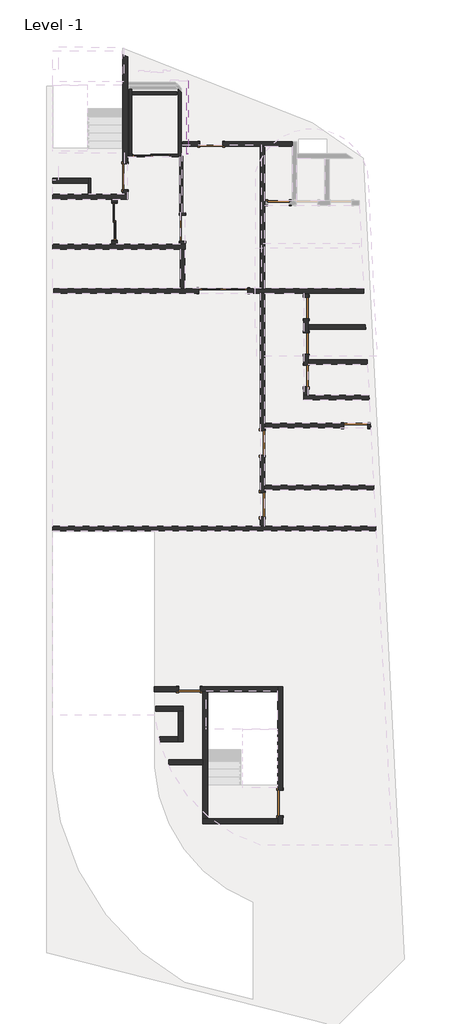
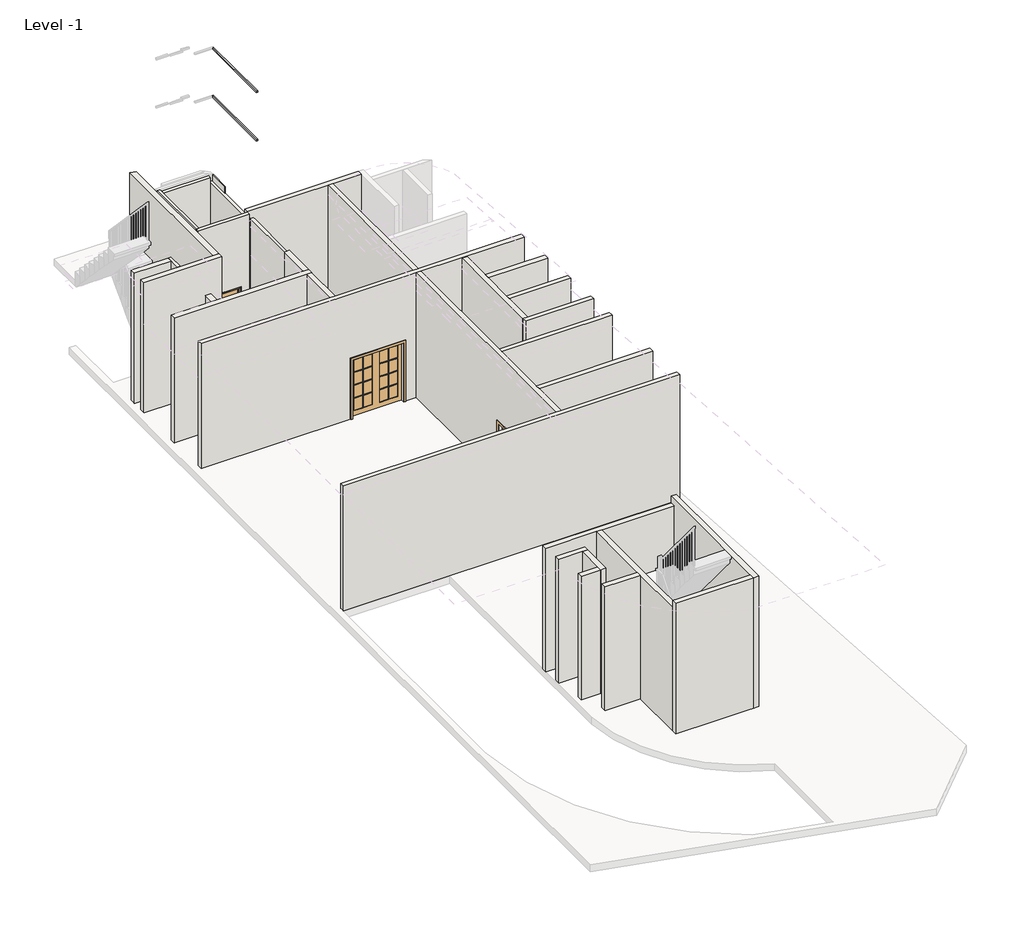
# One storey, part 1 of 3: 31 walls, 15 doors, 2 proxies.
"""IFC4 building model written with IfcOpenShell, lengths in millimetres."""

from ifc_helpers import new_model, si_unit, frame, origin, place, context, project, spatial, polyline, outline, extrude, faceted_brep, transform, mapped, element, save
from components import m_double_glass_2_1730_x_2134mm_148375e1, m_single_flush_0762_x_2032mm_6f5f7af1, m_single_flush_0762_x_2134mm_e7173df3, m_single_flush_0762_x_2134mm_6e0fa8c7, m_single_flush_0813_x_2134mm_33eb9d5a, m_single_flush_0864_x_2032mm_76ab4baa, m_single_flush_0864_x_2032mm_40cd5c93, m_single_flush_0915_x_2032mm_88b5ae01, m_single_flush_0915_x_2134mm_5c733ab1, sliding_door_2_panel_aus_f73f6a40, sliding_door_2_panel_aus_ee5771a8

model = new_model("IFC4")

# Units and contexts
model_context = context("Model", 3, world=origin())
ifc_project = project(units=[si_unit("LENGTHUNIT", "METRE", prefix="MILLI")], contexts=[model_context])

# Site, building, storey
site = spatial("IfcSite", under=ifc_project)
building = spatial("IfcBuilding", under=site)
storey = spatial("IfcBuildingStorey", under=building, Name="Level -1", Elevation=-3500.0)

# Proxies
placement = place(None, origin())
element("IfcBuildingElementProxy", 1, Name="Reveal", ObjectType="Reveal", at=placement, inside=storey, context=model_context, shape_type="SweptSolid", body=[
    extrude(outline(polyline([(4695.156273, 12731.9436225), (4745.156273, 12731.9436225), (4745.156273, 10131.7405588), (4695.156273, 10131.7405588), (4695.156273, 12731.9436225)])), frame((0.0, 0.0, 5406.0), z_axis=(0.0, 0.0, 1.0), x_axis=(1.0, 0.0, 0.0)), (0.0, 0.0, 1.0), 50.0),
])
element("IfcBuildingElementProxy", 2, Name="Reveal", ObjectType="Reveal", at=placement, inside=storey, context=model_context, shape_type="SweptSolid", body=[
    extrude(outline(polyline([(4695.156273, 12731.9436225), (4745.156273, 12731.9436225), (4745.156273, 10131.7405588), (4695.156273, 10131.7405588), (4695.156273, 12731.9436225)])), frame((0.0, 0.0, 3664.8841872), z_axis=(0.0, 0.0, 1.0), x_axis=(1.0, 0.0, 0.0)), (0.0, 0.0, 1.0), 50.0),
])

# Doors
m_double_glass_2_1730_x_2134mm_shape = m_double_glass_2_1730_x_2134mm_148375e1(model_context)
element("IfcDoor", 3, ObjectType="M_Double-Glass 2 : 1730 x 2134mm", at=placement, inside=storey, context=model_context, shape_type="MappedRepresentation", body=[
    mapped(m_double_glass_2_1730_x_2134mm_shape, transform((5994.6770156, 5282.6968455, -3500.0), x_axis=(1.0, 0.0, 0.0), y_axis=(0.0, 1.0, 0.0), z_axis=(0.0, 0.0, 1.0))),
])
m_single_flush_0762_x_2032mm_shape = m_single_flush_0762_x_2032mm_6f5f7af1(model_context)
element("IfcDoor", 4, ObjectType="M_Single-Flush : 0762 x 2032mm", at=placement, inside=storey, context=model_context, shape_type="MappedRepresentation", body=[
    mapped(m_single_flush_0762_x_2032mm_shape, transform((7949.4608626, 8399.9753316, -3500.0), x_axis=(-1.0, 0.0, 0.0), y_axis=(0.0, -1.0, 0.0), z_axis=(0.0, 0.0, 1.0))),
])
m_single_flush_0762_x_2134mm_shape = m_single_flush_0762_x_2134mm_e7173df3(model_context)
element("IfcDoor", 5, ObjectType="M_Single-Flush : 0762 x 2134mm", at=placement, inside=storey, context=model_context, shape_type="MappedRepresentation", body=[
    mapped(m_single_flush_0762_x_2134mm_shape, transform((4788.992527, -8850.5298497, -3500.0), x_axis=(1.0, 0.0, 0.0), y_axis=(0.0, 1.0, 0.0), z_axis=(0.0, 0.0, 1.0))),
])
m_single_flush_0762_x_2134mm_2_shape = m_single_flush_0762_x_2134mm_6e0fa8c7(model_context)
element("IfcDoor", 6, ObjectType="M_Single-Flush : 0762 x 2134mm", at=placement, inside=storey, context=model_context, shape_type="MappedRepresentation", body=[
    mapped(m_single_flush_0762_x_2134mm_2_shape, transform((8929.9434137, 4675.5054015, -3500.0), x_axis=(0.0, 1.0, 0.0), y_axis=(-1.0, 0.0, 0.0), z_axis=(0.0, 0.0, 1.0))),
])
element("IfcDoor", 7, ObjectType="M_Single-Flush : 0762 x 2134mm", at=placement, inside=storey, context=model_context, shape_type="MappedRepresentation", body=[
    mapped(m_single_flush_0762_x_2134mm_2_shape, transform((8929.9434137, 3413.5054015, -3500.0), x_axis=(0.0, 1.0, 0.0), y_axis=(-1.0, 0.0, 0.0), z_axis=(0.0, 0.0, 1.0))),
])
element("IfcDoor", 8, ObjectType="M_Single-Flush : 0762 x 2134mm", at=placement, inside=storey, context=model_context, shape_type="MappedRepresentation", body=[
    mapped(m_single_flush_0762_x_2134mm_2_shape, transform((8929.9434137, 2251.5054015, -3500.0), x_axis=(0.0, 1.0, 0.0), y_axis=(-1.0, 0.0, 0.0), z_axis=(0.0, 0.0, 1.0))),
])
m_single_flush_0813_x_2134mm_shape = m_single_flush_0813_x_2134mm_33eb9d5a(model_context)
element("IfcDoor", 9, ObjectType="M_Single-Flush : 0813 x 2134mm", at=placement, inside=storey, context=model_context, shape_type="MappedRepresentation", body=[
    mapped(m_single_flush_0813_x_2134mm_shape, transform((5561.458768, 10480.8522913, -3500.0), x_axis=(-1.0, 0.0, 0.0), y_axis=(0.0, -1.0, 0.0), z_axis=(0.0, 0.0, 1.0))),
])
m_single_flush_0864_x_2032mm_shape = m_single_flush_0864_x_2032mm_76ab4baa(model_context)
element("IfcDoor", 10, ObjectType="M_Single-Flush : 0864 x 2032mm", at=placement, inside=storey, context=model_context, shape_type="MappedRepresentation", body=[
    mapped(m_single_flush_0864_x_2032mm_shape, transform((7379.9434137, -112.8753921, -3500.0), x_axis=(0.0, 1.0, 0.0), y_axis=(-1.0, 0.0, 0.0), z_axis=(0.0, 0.0, 1.0))),
])
element("IfcDoor", 11, ObjectType="M_Single-Flush : 0864 x 2032mm", at=placement, inside=storey, context=model_context, shape_type="MappedRepresentation", body=[
    mapped(m_single_flush_0864_x_2032mm_shape, transform((7379.9434137, -2304.9476624, -3500.0), x_axis=(0.0, 1.0, 0.0), y_axis=(-1.0, 0.0, 0.0), z_axis=(0.0, 0.0, 1.0))),
])
m_single_flush_0864_x_2032mm_2_shape = m_single_flush_0864_x_2032mm_40cd5c93(model_context)
element("IfcDoor", 12, ObjectType="M_Single-Flush : 0864 x 2032mm", at=placement, inside=storey, context=model_context, shape_type="MappedRepresentation", body=[
    mapped(m_single_flush_0864_x_2032mm_2_shape, transform((10691.9434137, 499.1246079, -3500.0), x_axis=(1.0, 0.0, 0.0), y_axis=(0.0, 1.0, 0.0), z_axis=(0.0, 0.0, 1.0))),
])
m_single_flush_0915_x_2032mm_shape = m_single_flush_0915_x_2032mm_88b5ae01(model_context)
element("IfcDoor", 13, ObjectType="M_Single-Flush : 0915 x 2032mm", at=placement, inside=storey, context=model_context, shape_type="MappedRepresentation", body=[
    mapped(m_single_flush_0915_x_2032mm_shape, transform((8009.9667664, -12880.0279318, -3500.0), x_axis=(0.0, -1.0, 0.0), y_axis=(1.0, 0.0, 0.0), z_axis=(0.0, 0.0, 1.0))),
])
m_single_flush_0915_x_2134mm_shape = m_single_flush_0915_x_2134mm_5c733ab1(model_context)
element("IfcDoor", 14, ObjectType="M_Single-Flush : 0915 x 2134mm", at=placement, inside=storey, context=model_context, shape_type="MappedRepresentation", body=[
    mapped(m_single_flush_0915_x_2134mm_shape, transform((2509.6668671, 9329.4436159, -3500.0), x_axis=(0.0, -1.0, 0.0), y_axis=(1.0, 0.0, 0.0), z_axis=(0.0, 0.0, 1.0))),
])
element("IfcDoor", 15, ObjectType="M_Single-Flush : 0915 x 2134mm", at=placement, inside=storey, context=model_context, shape_type="MappedRepresentation", body=[
    mapped(m_single_flush_0915_x_2134mm_shape, transform((4549.6770164, 7499.4456458, -3500.0), x_axis=(0.0, -1.0, 0.0), y_axis=(1.0, 0.0, 0.0), z_axis=(0.0, 0.0, 1.0))),
])
sliding_door_2_panel_aus_shape = sliding_door_2_panel_aus_f73f6a40(model_context)
element("IfcDoor", 16, ObjectType="Sliding Door - 2 Panel (AUS) : elavator door", at=placement, inside=storey, context=model_context, shape_type="MappedRepresentation", body=[
    mapped(sliding_door_2_panel_aus_shape, transform((2134.7837288, 7646.1973399, -3500.0), x_axis=(0.0, 1.0, 0.0), y_axis=(-1.0, 0.0, 0.0), z_axis=(0.0, 0.0, 1.0))),
])
sliding_door_2_panel_aus_2_shape = sliding_door_2_panel_aus_ee5771a8(model_context)
element("IfcDoor", 17, ObjectType="Sliding Door - 2 Panel (AUS) : elavator door", at=placement, inside=storey, context=model_context, shape_type="MappedRepresentation", body=[
    mapped(sliding_door_2_panel_aus_2_shape, transform((3525.434997, 10081.9436225, -3500.0), x_axis=(-1.0, 0.0, 0.0), y_axis=(0.0, -1.0, 0.0), z_axis=(0.0, 0.0, 1.0))),
])

# Walls
element("IfcWall", 18, ObjectType="Generic - 18cm-gypsu-2boith 2", at=placement, inside=storey, context=model_context, shape_type="Brep", body=[
    faceted_brep([(4639.6770164, 6931.9670663, -3500.0), (4459.6770164, 6931.9670663, -3500.0), (2224.7837288, 6931.9670663, -3500.0), (2044.7837288, 6931.9670663, -3500.0), (-50.0290025, 6931.9670663, -3500.0), (-50.0290025, 6931.9670663, 1000.0), (4459.6770164, 6931.9670663, 1000.0), (4639.6770164, 6931.9670663, 1000.0), (4639.6770164, 6751.9670663, -3500.0), (4639.6770164, 6751.9670663, 1000.0), (4629.6770156, 6751.9670663, 1000.0), (4469.6770156, 6751.9670663, 1000.0), (-50.0290025, 6751.9670663, 1000.0), (-50.0290025, 6751.9670663, -3500.0), (4469.6770156, 6751.9670663, -3500.0), (4629.6770156, 6751.9670663, -3500.0)], [[[0, 1, 2, 3, 4, 5, 6, 7]], [[8, 9, 10, 11, 12, 13, 14, 15]], [[4, 3, 2, 1, 0, 8, 15, 14, 13]], [[7, 6, 5, 12, 11, 10, 9]], [[0, 7, 9, 8]], [[5, 4, 13, 12]]]),
])
element("IfcWall", 19, ObjectType="Generic - 18cm-gypsu-2boith 2", at=placement, inside=storey, context=model_context, shape_type="Brep", body=[
    faceted_brep([(4459.6770164, 7041.9456458, -1366.0), (4459.6770164, 7041.9456458, -3500.0), (4459.6770164, 6931.9670663, -3500.0), (4459.6770164, 6931.9670663, 1000.0), (4459.6770164, 8066.9242252, 1000.0), (4459.6770164, 8066.9242252, -3500.0), (4459.6770164, 7956.9456458, -3500.0), (4459.6770164, 7956.9456458, -1366.0), (4639.6770164, 6931.9670663, -3500.0), (4639.6770164, 7041.9456458, -3500.0), (4639.6770164, 7041.9456458, -1366.0), (4639.6770164, 7956.9456458, -1366.0), (4639.6770164, 7956.9456458, -3500.0), (4639.6770164, 8066.9242252, -3500.0), (4639.6770164, 8066.9242252, 1000.0), (4639.6770164, 6931.9670663, 1000.0), (4554.958768, 8066.9242252, -3500.0), (4554.958768, 8066.9242252, 1000.0)], [[[0, 1, 2, 3, 4, 5, 6, 7]], [[8, 9, 10, 11, 12, 13, 14, 15]], [[6, 5, 16, 13, 12]], [[2, 1, 9, 8]], [[4, 3, 15, 14, 17]], [[5, 4, 17, 14, 13, 16]], [[3, 2, 8, 15]], [[10, 9, 1, 0]], [[11, 10, 0, 7]], [[12, 11, 7, 6]]]),
])
element("IfcWall", 20, ObjectType="Generic - 18cm-gypsu-2boith 2", at=placement, inside=storey, context=model_context, shape_type="Brep", body=[
    faceted_brep([(2419.6668671, 8871.9436159, -1366.0), (2419.6668671, 8871.9436159, -3500.0), (2419.6668671, 8711.9436159, -3500.0), (2419.6668671, 8711.9436159, 1200.0), (2419.6668671, 13644.4416764, 1200.0), (2419.6668671, 13644.4416764, -3500.0), (2419.6668671, 9786.9436159, -3500.0), (2419.6668671, 9786.9436159, -1366.0), (2599.6668671, 8711.9436159, -3500.0), (2599.6668671, 8871.9436159, -3500.0), (2599.6668671, 8871.9436159, -1366.0), (2599.6668671, 9786.9436159, -1366.0), (2599.6668671, 9786.9436159, -3500.0), (2599.6668671, 13573.7027314, -3500.0), (2599.6668671, 13573.7027314, 1200.0), (2599.6668671, 8711.9436159, 1200.0)], [[[0, 1, 2, 3, 4, 5, 6, 7]], [[8, 9, 10, 11, 12, 13, 14, 15]], [[6, 5, 13, 12]], [[2, 1, 9, 8]], [[4, 3, 15, 14]], [[3, 2, 8, 15]], [[10, 9, 1, 0]], [[11, 10, 0, 7]], [[12, 11, 7, 6]], [[5, 4, 14, 13]]]),
])
element("IfcWall", 21, ObjectType="Generic - 18cm-gypsu-2boith 2", at=placement, inside=storey, context=model_context, shape_type="Brep", body=[
    faceted_brep([(2599.6668671, 8711.9436159, -3500.0), (2419.6668671, 8711.9436159, -3500.0), (-50.0290025, 8711.9436159, -3500.0), (-50.0290025, 8711.9436159, 1200.0), (2419.6668671, 8711.9436159, 1200.0), (2599.6668671, 8711.9436159, 1200.0), (2599.6668671, 8531.9436159, -3500.0), (2599.6668671, 8531.9436159, 1200.0), (-50.0290025, 8531.9436159, 1200.0), (-50.0290025, 8531.9436159, -3500.0), (2044.7837288, 8531.9436159, -3500.0), (2224.7837288, 8531.9436159, -3500.0)], [[[0, 1, 2, 3, 4, 5]], [[6, 7, 8, 9, 10, 11]], [[2, 1, 0, 6, 11, 10, 9]], [[5, 4, 3, 8, 7]], [[0, 5, 7, 6]], [[3, 2, 9, 8]]]),
])
element("IfcWall", 22, ObjectType="Generic - 10cm-gypsu-2boith", at=placement, inside=storey, context=model_context, shape_type="Brep", body=[
    faceted_brep([(4454.958768, 10056.7405588, 1000.0), (4454.958768, 10056.7405588, -3500.0), (4454.958768, 8066.9242252, -3500.0), (4454.958768, 8066.9242252, 1000.0), (4554.958768, 10056.7405588, -3500.0), (4554.958768, 10056.7405588, 1000.0), (4554.958768, 9981.7405588, 1000.0), (4554.958768, 8066.9242252, 1000.0), (4554.958768, 8066.9242252, -3500.0), (4459.6770164, 8066.9242252, -3500.0), (4459.6770164, 8066.9242252, 1000.0)], [[[0, 1, 2, 3]], [[4, 5, 6, 7, 8]], [[2, 1, 4, 8, 9]], [[3, 2, 9, 8, 7, 10]], [[0, 3, 10, 7, 6, 5]], [[0, 5, 4, 1]]]),
])
element("IfcWall", 23, ObjectType="Generic - 10cm-gypsu-2boith", at=placement, inside=storey, context=model_context, shape_type="Brep", body=[
    faceted_brep([(1198.6625691, 9269.4957276, -3500.0), (1198.6625691, 9089.4957276, -3500.0), (1198.6625691, 8731.9436159, -3500.0), (1198.6625691, 8731.9436159, 1200.0), (1198.6625691, 9089.4957276, 1200.0), (1198.6625691, 9269.4957276, 1200.0), (1298.6625691, 9269.4957276, -3500.0), (1298.6625691, 9269.4957276, 1200.0), (1298.6625691, 8731.9436159, 1200.0), (1298.6625691, 8731.9436159, -3500.0)], [[[0, 1, 2, 3, 4, 5]], [[6, 7, 8, 9]], [[2, 1, 0, 6, 9]], [[3, 2, 9, 8]], [[5, 4, 3, 8, 7]], [[0, 5, 7, 6]]]),
])
element("IfcWall", 24, ObjectType="Generic - 18cm-gypsu-2boith 2", at=placement, inside=storey, context=model_context, shape_type="SweptSolid", body=[
    extrude(outline(polyline([(1198.6625691, 9089.4957276), (-50.0290025, 9089.4957276), (-50.0290025, 9269.4957276), (1198.6625691, 9269.4957276), (1198.6625691, 9089.4957276)])), frame((0.0, 0.0, -3500.0), z_axis=(0.0, 0.0, 1.0), x_axis=(1.0, 0.0, 0.0)), (0.0, 0.0, 1.0), 4700.0),
])
element("IfcWall", 25, ObjectType="Generic - 10cm-gypsu-2boith", at=placement, inside=storey, context=model_context, shape_type="Brep", body=[
    faceted_brep([(4399.6302337, 10031.9436225, 1200.0), (2649.6769958, 10031.9436225, 1200.0), (2649.6769958, 10031.9436225, -3500.0), (2749.6769958, 10031.9436225, -3500.0), (2749.6769958, 10031.9436225, -1317.0), (4129.6769958, 10031.9436225, -1317.0), (4129.6769958, 10031.9436225, -3500.0), (4399.6302337, 10031.9436225, -3500.0), (2649.6769958, 10131.9436225, 1200.0), (2749.6769958, 10131.9436225, 1200.0), (4399.6302337, 10131.9436225, 1200.0), (4399.6302337, 10131.9436225, -3500.0), (4129.6769958, 10131.9436225, -3500.0), (4129.6769958, 10131.9436225, -1317.0), (2749.6769958, 10131.9436225, -1317.0), (2749.6769958, 10131.9436225, -3500.0), (2649.6769958, 10131.9436225, -3500.0), (4399.6302337, 10046.9423839, -3500.0)], [[[0, 1, 2, 3, 4, 5, 6, 7]], [[8, 9, 10, 11, 12, 13, 14, 15, 16]], [[2, 16, 15, 3]], [[11, 17, 7, 6, 12]], [[1, 0, 10, 9, 8]], [[2, 1, 8, 16]], [[0, 7, 17, 11, 10]], [[5, 13, 12, 6]], [[13, 5, 4, 14]], [[14, 4, 3, 15]]]),
])
element("IfcWall", 26, ObjectType="Generic - 10cm-gypsu-2boith", at=placement, inside=storey, context=model_context, shape_type="Brep", body=[
    faceted_brep([(4399.6302337, 12428.1995427, -3500.0), (4399.6302337, 10131.9436225, -3500.0), (4399.6302337, 10046.9423839, -3500.0), (4399.6302337, 10046.9423839, 959.0), (4399.6302337, 12428.1995427, 959.0), (4499.6302337, 10046.9423839, -3500.0), (4499.6302337, 12328.1995427, -3500.0), (4499.6302337, 12328.1995427, 1200.0), (4499.6302337, 11608.4756141, 1200.0), (4499.6302337, 11608.4756141, 959.0), (4499.6302337, 10046.9423839, 959.0), (4484.6302337, 12343.1995427, 1200.0), (4484.6302337, 11608.4756141, 1200.0), (4484.6302337, 12343.1995427, 959.0), (4484.6302337, 11608.4756141, 959.0)], [[[0, 1, 2, 3, 4]], [[5, 6, 7, 8, 9, 10]], [[2, 1, 0, 6, 5]], [[8, 7, 11, 12]], [[7, 6, 0, 4, 13, 11]], [[9, 14, 13, 4, 3, 10]], [[14, 12, 11, 13]], [[12, 14, 9, 8]], [[2, 5, 10, 3]]]),
])
element("IfcWall", 27, ObjectType="Generic - 10cm-gypsu-2boith", at=placement, inside=storey, context=model_context, shape_type="Brep", body=[
    faceted_brep([(2649.6769958, 12431.9436225, -3500.0), (2649.6769958, 10131.9436225, -3500.0), (2649.6769958, 10131.9436225, 1200.0), (2649.6769958, 12431.9436225, 1200.0), (2749.6769958, 12431.9436225, -3500.0), (2749.6769958, 12431.9436225, 1200.0), (2749.6769958, 12331.9436225, 1200.0), (2749.6769958, 12231.9436225, 1200.0), (2749.6769958, 10131.9436225, 1200.0), (2749.6769958, 10131.9436225, -3500.0), (2749.6769958, 12231.9436225, -3500.0), (2749.6769958, 12331.9436225, -3500.0)], [[[0, 1, 2, 3]], [[4, 5, 6, 7, 8, 9, 10, 11]], [[1, 0, 4, 11, 10, 9]], [[3, 2, 8, 7, 6, 5]], [[2, 1, 9, 8]], [[0, 3, 5, 4]]]),
])
element("IfcWall", 28, ObjectType="Generic - 10cm-gypsu-2boith", at=placement, inside=storey, context=model_context, shape_type="SweptSolid", body=[
    extrude(outline(polyline([(2749.6769958, 12331.9436225), (4349.6770254, 12331.9436225), (4349.6770254, 12231.9436225), (2749.6769958, 12231.9436225), (2749.6769958, 12331.9436225)])), frame((0.0, 0.0, -3500.0), z_axis=(0.0, 0.0, 1.0), x_axis=(1.0, 0.0, 0.0)), (0.0, 0.0, 1.0), 4700.0),
])
element("IfcWall", 29, ObjectType="Generic - 18cm-gypsu-2boith 2", at=placement, inside=storey, context=model_context, shape_type="Brep", body=[
    faceted_brep([(5169.992527, -8760.5298497, -3500.0), (5169.992527, -8760.5298497, -1366.0), (4407.992527, -8760.5298497, -1366.0), (4407.992527, -8760.5298497, -3500.0), (3549.4089841, -8760.5298497, -3500.0), (3549.4089841, -8760.5298497, 959.0), (7919.9667664, -8760.5298497, 959.0), (7919.9667664, -8760.5298497, -3500.0), (5169.992527, -8940.5298497, -1366.0), (5169.992527, -8940.5298497, -3500.0), (5269.992527, -8940.5298497, -3500.0), (5449.992527, -8940.5298497, -3500.0), (7919.9667664, -8940.5298497, -3500.0), (7919.9667664, -8940.5298497, 959.0), (7909.9709976, -8940.5298497, 959.0), (5449.992527, -8940.5298497, 959.0), (5269.992527, -8940.5298497, 959.0), (3549.4089841, -8940.5298497, 959.0), (3549.4089841, -8940.5298497, -3500.0), (4407.992527, -8940.5298497, -3500.0), (4407.992527, -8940.5298497, -1366.0)], [[[0, 1, 2, 3, 4, 5, 6, 7]], [[8, 9, 10, 11, 12, 13, 14, 15, 16, 17, 18, 19, 20]], [[18, 4, 3, 19]], [[9, 0, 7, 12, 11, 10]], [[4, 18, 17, 5]], [[1, 0, 9, 8]], [[2, 1, 8, 20]], [[3, 2, 20, 19]], [[12, 7, 6, 13]], [[6, 5, 17, 16, 15, 14, 13]]]),
])
element("IfcWall", 30, ObjectType="Generic - 18cm-gypsu-2boith 2", at=placement, inside=storey, context=model_context, shape_type="Brep", body=[
    faceted_brep([(7919.9667664, -13337.5279318, -1468.0), (7919.9667664, -13337.5279318, -3500.0), (7919.9667664, -13437.5279318, -3500.0), (7919.9667664, -13617.5279318, -3500.0), (7919.9667664, -13617.5279318, 1200.0), (7919.9667664, -13437.5279318, 1200.0), (7919.9667664, -8940.5298497, 1200.0), (7919.9667664, -8760.5298497, 1200.0), (7919.9667664, -8760.5298497, -3500.0), (7919.9667664, -8940.5298497, -3500.0), (7919.9667664, -12422.5279318, -3500.0), (7919.9667664, -12422.5279318, -1468.0), (8099.9667664, -13617.5279318, -3500.0), (8099.9667664, -13337.5279318, -3500.0), (8099.9667664, -13337.5279318, -1468.0), (8099.9667664, -12422.5279318, -1468.0), (8099.9667664, -12422.5279318, -3500.0), (8099.9667664, -8760.5298497, -3500.0), (8099.9667664, -8760.5298497, 1200.0), (8099.9667664, -13617.5279318, 1200.0)], [[[0, 1, 2, 3, 4, 5, 6, 7, 8, 9, 10, 11]], [[12, 13, 14, 15, 16, 17, 18, 19]], [[3, 2, 1, 13, 12]], [[10, 9, 8, 17, 16]], [[7, 6, 5, 4, 19, 18]], [[4, 3, 12, 19]], [[14, 13, 1, 0]], [[15, 14, 0, 11]], [[16, 15, 11, 10]], [[8, 7, 18, 17]]]),
])
element("IfcWall", 31, ObjectType="Generic - 18cm-gypsu-2boith 2", at=placement, inside=storey, context=model_context, shape_type="Brep", body=[
    faceted_brep([(5449.992527, -13437.5279318, -3500.0), (5449.992527, -8940.5298497, -3500.0), (5449.992527, -8940.5298497, 959.0), (5449.992527, -12235.6929429, 959.0), (5449.992527, -13437.5279318, 959.0), (5269.992527, -8940.5298497, -3500.0), (5269.992527, -11355.2406086, -3500.0), (5269.992527, -11535.2406086, -3500.0), (5269.992527, -13437.5279318, -3500.0), (5269.992527, -13437.5279318, 959.0), (5269.992527, -11535.2406086, 959.0), (5269.992527, -11355.2406086, 959.0), (5269.992527, -8940.5298497, 959.0)], [[[0, 1, 2, 3, 4]], [[5, 6, 7, 8, 9, 10, 11, 12]], [[1, 0, 8, 7, 6, 5]], [[1, 5, 12, 2]], [[8, 0, 4, 9]], [[4, 3, 2, 12, 11, 10, 9]]]),
])
element("IfcWall", 32, ObjectType="Generic - 18cm-gypsu-2boith 2", at=placement, inside=storey, context=model_context, shape_type="Brep", body=[
    faceted_brep([(7919.9667664, -13437.5279318, -3500.0), (5449.992527, -13437.5279318, -3500.0), (5269.992527, -13437.5279318, -3500.0), (5269.992527, -13437.5279318, 1200.0), (5449.992527, -13437.5279318, 1200.0), (7919.9667664, -13437.5279318, 1200.0), (7919.9667664, -13617.5279318, -3500.0), (7919.9667664, -13617.5279318, 1200.0), (5269.992527, -13617.5279318, 1200.0), (5269.992527, -13617.5279318, -3500.0)], [[[0, 1, 2, 3, 4, 5]], [[6, 7, 8, 9]], [[2, 1, 0, 6, 9]], [[5, 4, 3, 8, 7]], [[0, 5, 7, 6]], [[3, 2, 9, 8]]]),
])
element("IfcWall", 33, ObjectType="Generic - 18cm-gypsu-2boith 2", at=placement, inside=storey, context=model_context, shape_type="SweptSolid", body=[
    extrude(outline(polyline([(4059.992527, -11355.2406086), (5269.992527, -11355.2406086), (5269.992527, -11535.2406086), (4059.992527, -11535.2406086), (4059.992527, -11355.2406086)])), frame((0.0, 0.0, -3500.0), z_axis=(0.0, 0.0, 1.0), x_axis=(1.0, 0.0, 0.0)), (0.0, 0.0, 1.0), 4459.0),
])
element("IfcWall", 34, ObjectType="Generic - 18cm-gypsu-2boith 2", at=placement, inside=storey, context=model_context, shape_type="Brep", body=[
    faceted_brep([(4578.6875281, -9450.0867626, -3500.0), (3601.2929486, -9450.0867626, -3500.0), (3601.2929486, -9450.0867626, 959.0), (4578.6875281, -9450.0867626, 959.0), (3601.2929486, -9630.0867626, -3500.0), (4398.6875281, -9630.0867626, -3500.0), (4578.6875281, -9630.0867626, -3500.0), (4578.6875281, -9630.0867626, 959.0), (4398.6875281, -9630.0867626, 959.0), (3601.2929486, -9630.0867626, 959.0)], [[[0, 1, 2, 3]], [[4, 5, 6, 7, 8, 9]], [[1, 0, 6, 5, 4]], [[1, 4, 9, 2]], [[6, 0, 3, 7]], [[3, 2, 9, 8, 7]]]),
])
element("IfcWall", 35, ObjectType="Generic - 18cm-gypsu-2boith 2", at=placement, inside=storey, context=model_context, shape_type="Brep", body=[
    faceted_brep([(4398.6875281, -9630.0867626, -3500.0), (4398.6875281, -10530.0867626, -3500.0), (4398.6875281, -10710.0867626, -3500.0), (4398.6875281, -10710.0867626, 959.0), (4398.6875281, -10530.0867626, 959.0), (4398.6875281, -9630.0867626, 959.0), (4578.6875281, -10710.0867626, -3500.0), (4578.6875281, -9630.0867626, -3500.0), (4578.6875281, -9630.0867626, 959.0), (4578.6875281, -10710.0867626, 959.0)], [[[0, 1, 2, 3, 4, 5]], [[6, 7, 8, 9]], [[2, 1, 0, 7, 6]], [[7, 0, 5, 8]], [[2, 6, 9, 3]], [[5, 4, 3, 9, 8]]]),
])
element("IfcWall", 36, ObjectType="Generic - 18cm-gypsu-2boith 2", at=placement, inside=storey, context=model_context, shape_type="SweptSolid", body=[
    extrude(outline(polyline([(3731.2929486, -10530.0867626), (4398.6875281, -10530.0867626), (4398.6875281, -10710.0867626), (3731.2929486, -10710.0867626), (3731.2929486, -10530.0867626)])), frame((0.0, 0.0, -3500.0), z_axis=(0.0, 0.0, 1.0), x_axis=(1.0, 0.0, 0.0)), (0.0, 0.0, 1.0), 4459.0),
])
element("IfcWall", 37, ObjectType="Generic - 18cm-gypsu-2boith 2", at=placement, inside=storey, context=model_context, shape_type="SweptSolid", body=[
    extrude(outline(polyline([(6931.9670663, 0.0), (8531.9436159, 0.0), (8531.9436159, -3500.0), (8421.9553411, -3500.0), (8421.9553411, -1317.0), (7041.9553411, -1317.0), (7041.9553411, -3500.0), (6931.9670663, -3500.0), (6931.9670663, 0.0)])), frame((2044.7837288, 0.0, 0.0), z_axis=(1.0, 0.0, 0.0), x_axis=(0.0, 1.0, 0.0)), (0.0, 0.0, 1.0), 180.0),
])
element("IfcWall", 38, ObjectType="Generic - 20cm-granit2side", at=placement, inside=storey, context=model_context, shape_type="Brep", body=[
    faceted_brep([(11396.7846881, -3072.9476624, -3500.0), (7459.9434137, -3072.9476624, -3500.0), (7299.9434137, -3072.9476624, -3500.0), (-50.0290025, -3072.9476624, -3500.0), (-50.0290025, -3072.9476624, 1000.0), (7299.9434137, -3072.9476624, 1000.0), (7459.9434137, -3072.9476624, 1000.0), (11396.7846881, -3072.9476624, 1000.0), (11404.9288213, -3232.9476624, -3500.0), (11404.9288213, -3232.9476624, 1000.0), (-50.0290025, -3232.9476624, 1000.0), (-50.0290025, -3232.9476624, -3500.0)], [[[0, 1, 2, 3, 4, 5, 6, 7]], [[8, 9, 10, 11]], [[3, 2, 1, 0, 8, 11]], [[7, 6, 5, 4, 10, 9]], [[0, 7, 9, 8]], [[4, 3, 11, 10]]]),
])
element("IfcWall", 39, ObjectType="Generic - 20cm-granit2side", at=placement, inside=storey, context=model_context, shape_type="SweptSolid", body=[
    extrude(outline(polyline([(7459.9434137, -1612.9476624), (11322.4694728, -1612.9476624), (11330.613606, -1772.9476624), (7459.9434137, -1772.9476624), (7459.9434137, -1612.9476624)])), frame((0.0, 0.0, -3500.0), z_axis=(0.0, 0.0, 1.0), x_axis=(1.0, 0.0, 0.0)), (0.0, 0.0, 1.0), 4500.0),
])
element("IfcWall", 40, ObjectType="Generic - 20cm-granit2side", at=placement, inside=storey, context=model_context, shape_type="Brep", body=[
    faceted_brep([(11210.8911696, 579.1246079, -3500.0), (11123.9434137, 579.1246079, -3500.0), (11123.9434137, 579.1246079, -1468.0), (10259.9434137, 579.1246079, -1468.0), (10259.9434137, 579.1246079, -3500.0), (7459.9434137, 579.1246079, -3500.0), (7459.9434137, 579.1246079, 1000.0), (11210.8911696, 579.1246079, 1000.0), (11123.9434137, 419.1246079, -1468.0), (11123.9434137, 419.1246079, -3500.0), (11219.0353028, 419.1246079, -3500.0), (11219.0353028, 419.1246079, 1000.0), (7459.9434137, 419.1246079, 1000.0), (7459.9434137, 419.1246079, -3500.0), (10259.9434137, 419.1246079, -3500.0), (10259.9434137, 419.1246079, -1468.0)], [[[0, 1, 2, 3, 4, 5, 6, 7]], [[8, 9, 10, 11, 12, 13, 14, 15]], [[14, 13, 5, 4]], [[10, 9, 1, 0]], [[7, 6, 12, 11]], [[6, 5, 13, 12]], [[0, 7, 11, 10]], [[2, 1, 9, 8]], [[3, 2, 8, 15]], [[4, 3, 15, 14]]]),
])
element("IfcWall", 41, ObjectType="Generic - 20cm-granit2side", at=placement, inside=storey, context=model_context, shape_type="Brep", body=[
    faceted_brep([(11159.9383106, 1580.1467241, -3500.0), (9009.9434137, 1584.1583086, -3500.0), (8849.9434137, 1584.4568459, -3500.0), (8849.9434137, 1584.4568459, 1000.0), (9009.9434137, 1584.1583086, 1000.0), (11159.9383106, 1580.1467241, 1000.0), (11168.0832316, 1420.1312483, -3500.0), (11168.0832316, 1420.1312483, 1000.0), (8849.9434137, 1424.4565673, 1000.0), (8849.9434137, 1424.4565673, -3500.0)], [[[0, 1, 2, 3, 4, 5]], [[6, 7, 8, 9]], [[2, 1, 0, 6, 9]], [[5, 4, 3, 8, 7]], [[0, 5, 7, 6]], [[3, 2, 9, 8]]]),
])
element("IfcWall", 42, ObjectType="Generic - 20cm-granit2side", at=placement, inside=storey, context=model_context, shape_type="SweptSolid", body=[
    extrude(outline(polyline([(9009.9434137, 2834.1607667), (11096.3059785, 2830.2703307), (11104.4508989, 2670.2548647), (9009.9434137, 2674.1604885), (9009.9434137, 2834.1607667)])), frame((0.0, 0.0, -3500.0), z_axis=(0.0, 0.0, 1.0), x_axis=(1.0, 0.0, 0.0)), (0.0, 0.0, 1.0), 4500.0),
])
element("IfcWall", 43, ObjectType="Generic - 20cm-granit2side", at=placement, inside=storey, context=model_context, shape_type="SweptSolid", body=[
    extrude(outline(polyline([(9009.9434137, 4084.2516374), (11032.6736251, 4080.3943545), (11040.8185637, 3920.3785315), (9009.9434137, 3924.2513465), (9009.9434137, 4084.2516374)])), frame((0.0, 0.0, -3500.0), z_axis=(0.0, 0.0, 1.0), x_axis=(1.0, 0.0, 0.0)), (0.0, 0.0, 1.0), 4500.0),
])
element("IfcWall", 44, ObjectType="Generic - 20cm-granit2side", at=placement, inside=storey, context=model_context, shape_type="Brep", body=[
    faceted_brep([(9009.9434137, 2632.5054015, -1366.0), (9009.9434137, 2632.5054015, -3500.0), (9009.9434137, 2674.1604885, -3500.0), (9009.9434137, 2834.1607667, -3500.0), (9009.9434137, 3032.5054015, -3500.0), (9009.9434137, 3032.5054015, -1366.0), (9009.9434137, 3794.5054015, -1366.0), (9009.9434137, 3794.5054015, -3500.0), (9009.9434137, 3924.2513465, -3500.0), (9009.9434137, 4084.2516374, -3500.0), (9009.9434137, 4294.5054015, -3500.0), (9009.9434137, 4294.5054015, -1366.0), (9009.9434137, 5056.5054015, -1366.0), (9009.9434137, 5056.5054015, -3500.0), (9009.9434137, 5156.5054015, -3500.0), (9009.9434137, 5156.5054015, 1000.0), (9009.9434137, 4084.2516374, 1000.0), (9009.9434137, 3924.2513465, 1000.0), (9009.9434137, 2834.1607667, 1000.0), (9009.9434137, 2674.1604885, 1000.0), (9009.9434137, 1584.1583086, 1000.0), (9009.9434137, 1584.1583086, -3500.0), (9009.9434137, 1870.5054015, -3500.0), (9009.9434137, 1870.5054015, -1366.0), (8849.9434137, 3032.5054015, -3500.0), (8849.9434137, 2632.5054015, -3500.0), (8849.9434137, 2632.5054015, -1366.0), (8849.9434137, 1870.5054015, -1366.0), (8849.9434137, 1870.5054015, -3500.0), (8849.9434137, 1584.4568459, -3500.0), (8849.9434137, 1584.4568459, 1000.0), (8849.9434137, 5156.5054015, 1000.0), (8849.9434137, 5156.5054015, -3500.0), (8849.9434137, 5056.5054015, -3500.0), (8849.9434137, 5056.5054015, -1366.0), (8849.9434137, 4294.5054015, -1366.0), (8849.9434137, 4294.5054015, -3500.0), (8849.9434137, 3794.5054015, -3500.0), (8849.9434137, 3794.5054015, -1366.0), (8849.9434137, 3032.5054015, -1366.0)], [[[0, 1, 2, 3, 4, 5, 6, 7, 8, 9, 10, 11, 12, 13, 14, 15, 16, 17, 18, 19, 20, 21, 22, 23]], [[24, 25, 26, 27, 28, 29, 30, 31, 32, 33, 34, 35, 36, 37, 38, 39]], [[14, 13, 33, 32]], [[10, 9, 8, 7, 37, 36]], [[22, 21, 29, 28]], [[4, 3, 2, 1, 25, 24]], [[15, 14, 32, 31]], [[20, 19, 18, 17, 16, 15, 31, 30]], [[21, 20, 30, 29]], [[34, 33, 13, 12]], [[35, 34, 12, 11]], [[36, 35, 11, 10]], [[38, 37, 7, 6]], [[39, 38, 6, 5]], [[24, 39, 5, 4]], [[26, 25, 1, 0]], [[27, 26, 0, 23]], [[28, 27, 23, 22]]]),
])
element("IfcWall", 45, ObjectType="Generic - 20cm-granit2side", at=placement, inside=storey, context=model_context, shape_type="Brep", body=[
    faceted_brep([(-20.0574091, 5362.6968455, -3500.0), (-20.0574091, 5362.6968455, 1000.0), (4469.6770156, 5362.6968455, 1000.0), (4629.6770156, 5362.6968455, 1000.0), (7299.9434137, 5362.6968455, 1000.0), (7459.9434137, 5362.6968455, 1000.0), (10967.4033609, 5362.6968455, 1000.0), (10967.4033609, 5362.6968455, -3500.0), (7459.9434137, 5362.6968455, -3500.0), (7299.9434137, 5362.6968455, -3500.0), (6859.6770156, 5362.6968455, -3500.0), (6859.6770156, 5362.6968455, -1366.0), (5129.6770156, 5362.6968455, -1366.0), (5129.6770156, 5362.6968455, -3500.0), (4629.6770156, 5362.6968455, -3500.0), (4469.6770156, 5362.6968455, -3500.0), (-20.0574091, 5202.6968455, 1000.0), (-20.0574091, 5202.6968455, -3500.0), (5129.6770156, 5202.6968455, -3500.0), (5129.6770156, 5202.6968455, -1366.0), (6859.6770156, 5202.6968455, -1366.0), (6859.6770156, 5202.6968455, -3500.0), (7299.9434137, 5202.6968455, -3500.0), (7459.9434137, 5202.6968455, -3500.0), (10975.5474941, 5202.6968455, -3500.0), (10975.5474941, 5202.6968455, 1000.0), (7459.9434137, 5202.6968455, 1000.0), (7299.9434137, 5202.6968455, 1000.0)], [[[0, 1, 2, 3, 4, 5, 6, 7, 8, 9, 10, 11, 12, 13, 14, 15]], [[16, 17, 18, 19, 20, 21, 22, 23, 24, 25, 26, 27]], [[17, 0, 15, 14, 13, 18]], [[7, 24, 23, 22, 21, 10, 9, 8]], [[1, 0, 17, 16]], [[6, 5, 4, 3, 2, 1, 16, 27, 26, 25]], [[7, 6, 25, 24]], [[20, 11, 10, 21]], [[11, 20, 19, 12]], [[12, 19, 18, 13]]]),
])
element("IfcWall", 46, ObjectType="Generic - 20cm-granit2side", at=placement, inside=storey, context=model_context, shape_type="SweptSolid", body=[
    extrude(outline(polyline([(4629.6770156, 6751.9670663), (4629.6770156, 5362.6968455), (4469.6770156, 5362.6968455), (4469.6770156, 6751.9670663), (4629.6770156, 6751.9670663)])), frame((0.0, 0.0, -3500.0), z_axis=(0.0, 0.0, 1.0), x_axis=(1.0, 0.0, 0.0)), (0.0, 0.0, 1.0), 4500.0),
])
element("IfcWall", 47, ObjectType="Generic - 20cm-granit2side", at=placement, inside=storey, context=model_context, shape_type="Brep", body=[
    faceted_brep([(7459.9434137, -544.8753921, -3500.0), (7459.9434137, -544.8753921, -1468.0), (7459.9434137, 319.1246079, -1468.0), (7459.9434137, 319.1246079, -3500.0), (7459.9434137, 419.1246079, -3500.0), (7459.9434137, 579.1246079, -3500.0), (7459.9434137, 5202.6968455, -3500.0), (7459.9434137, 5202.6968455, 1000.0), (7459.9434137, 579.1246079, 1000.0), (7459.9434137, 419.1246079, 1000.0), (7459.9434137, -1612.9476624, 1000.0), (7459.9434137, -1772.9476624, 1000.0), (7459.9434137, -3072.9476624, 1000.0), (7459.9434137, -3072.9476624, -3500.0), (7459.9434137, -2736.9476624, -3500.0), (7459.9434137, -2736.9476624, -1468.0), (7459.9434137, -1872.9476624, -1468.0), (7459.9434137, -1872.9476624, -3500.0), (7459.9434137, -1772.9476624, -3500.0), (7459.9434137, -1612.9476624, -3500.0), (7299.9434137, -544.8753921, -1468.0), (7299.9434137, -544.8753921, -3500.0), (7299.9434137, -1872.9476624, -3500.0), (7299.9434137, -1872.9476624, -1468.0), (7299.9434137, -2736.9476624, -1468.0), (7299.9434137, -2736.9476624, -3500.0), (7299.9434137, -3072.9476624, -3500.0), (7299.9434137, -3072.9476624, 1000.0), (7299.9434137, 5202.6968455, 1000.0), (7299.9434137, 5202.6968455, -3500.0), (7299.9434137, 319.1246079, -3500.0), (7299.9434137, 319.1246079, -1468.0)], [[[0, 1, 2, 3, 4, 5, 6, 7, 8, 9, 10, 11, 12, 13, 14, 15, 16, 17, 18, 19]], [[20, 21, 22, 23, 24, 25, 26, 27, 28, 29, 30, 31]], [[21, 0, 19, 18, 17, 22]], [[3, 30, 29, 6, 5, 4]], [[25, 14, 13, 26]], [[27, 12, 11, 10, 9, 8, 7, 28]], [[21, 20, 1, 0]], [[20, 31, 2, 1]], [[31, 30, 3, 2]], [[25, 24, 15, 14]], [[24, 23, 16, 15]], [[23, 22, 17, 16]], [[13, 12, 27, 26]], [[7, 6, 29, 28]]]),
    faceted_brep([(7459.9434137, 10400.8522913, -3500.0), (7459.9434137, 10400.8522913, 1000.0), (7459.9434137, 5362.6968455, 1000.0), (7459.9434137, 5362.6968455, -3500.0), (7459.9434137, 8319.9753316, -3500.0), (7459.9434137, 8479.9753316, -3500.0), (7299.9434137, 10400.8522913, 1000.0), (7299.9434137, 10400.8522913, -3500.0), (7299.9434137, 5362.6968455, -3500.0), (7299.9434137, 5362.6968455, 1000.0)], [[[0, 1, 2, 3, 4, 5]], [[6, 7, 8, 9]], [[7, 0, 5, 4, 3, 8]], [[1, 6, 9, 2]], [[3, 2, 9, 8]], [[0, 7, 6, 1]]]),
])
element("IfcWall", 48, ObjectType="Generic - 20cm-granit2side", at=placement, inside=storey, context=model_context, shape_type="Brep", body=[
    faceted_brep([(4554.958768, 10400.8522913, -3500.0), (5154.958768, 10400.8522913, -3500.0), (5154.958768, 10400.8522913, -1366.0), (5967.958768, 10400.8522913, -1366.0), (5967.958768, 10400.8522913, -3500.0), (7299.9434137, 10400.8522913, -3500.0), (7459.9434137, 10400.8522913, -3500.0), (8438.9783115, 10400.8522913, -3500.0), (8438.9783115, 10400.8522913, 1000.0), (7459.9434137, 10400.8522913, 1000.0), (7299.9434137, 10400.8522913, 1000.0), (4554.958768, 10400.8522913, 1000.0), (5154.958768, 10560.8522913, -1366.0), (5154.958768, 10560.8522913, -3500.0), (4554.958768, 10560.8522913, -3500.0), (4554.958768, 10560.8522913, 1000.0), (8438.9783115, 10560.8522913, 1000.0), (8438.9783115, 10560.8522913, -3500.0), (5967.958768, 10560.8522913, -3500.0), (5967.958768, 10560.8522913, -1366.0)], [[[0, 1, 2, 3, 4, 5, 6, 7, 8, 9, 10, 11]], [[12, 13, 14, 15, 16, 17, 18, 19]], [[18, 17, 7, 6, 5, 4]], [[14, 13, 1, 0]], [[11, 10, 9, 8, 16, 15]], [[0, 11, 15, 14]], [[8, 7, 17, 16]], [[2, 1, 13, 12]], [[3, 2, 12, 19]], [[4, 3, 19, 18]]]),
])

save(model, "model.ifc")
